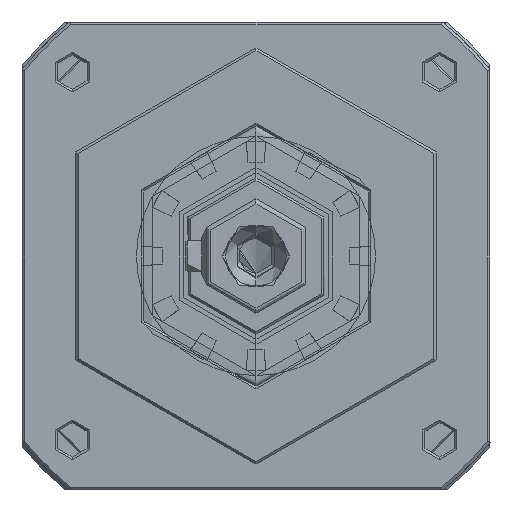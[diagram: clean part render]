
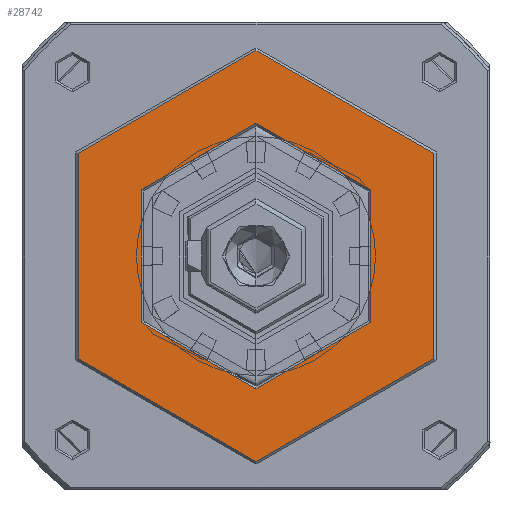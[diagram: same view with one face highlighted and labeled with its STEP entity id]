
A CAD part, left-side view. The second image highlights one B-rep face of the part: STEP entity #28742.
In plain terms, the highlighted planar face has unit normal (-1, 0, 0).
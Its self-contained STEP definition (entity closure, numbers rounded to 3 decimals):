
#3288 = CARTESIAN_POINT ( 'NONE',  ( 0., 0., 39.5 ) ) ;
#4000 = AXIS2_PLACEMENT_3D ( 'NONE', #36853, #35864, #81237 ) ;
#7111 = FACE_BOUND ( 'NONE', #68699, .T. ) ;
#7297 = PLANE ( 'NONE',  #24730 ) ;
#12722 = VERTEX_POINT ( 'NONE', #3288 ) ;
#13312 = CIRCLE ( 'NONE', #31632, 25.5 ) ;
#17200 = ORIENTED_EDGE ( 'NONE', *, *, #17558, .F. ) ;
#17558 = EDGE_CURVE ( 'NONE', #12722, #87925, #45210, .T. ) ;
#24190 = ORIENTED_EDGE ( 'NONE', *, *, #43561, .F. ) ;
#24300 = DIRECTION ( 'NONE',  ( 1., 0., 0. ) ) ;
#24730 = AXIS2_PLACEMENT_3D ( 'NONE', #76433, #68855, #76109 ) ;
#24951 = DIRECTION ( 'NONE',  ( 0., 0., 1. ) ) ;
#25917 = CARTESIAN_POINT ( 'NONE',  ( 0., 0., 0. ) ) ;
#26643 = EDGE_CURVE ( 'NONE', #57995, #82497, #13312, .T. ) ;
#28742 = ADVANCED_FACE ( 'NONE', ( #7111, #40228 ), #7297, .F. ) ;
#31414 = CARTESIAN_POINT ( 'NONE',  ( 0., 0., -39.5 ) ) ;
#31632 = AXIS2_PLACEMENT_3D ( 'NONE', #69634, #24300, #24951 ) ;
#33491 = DIRECTION ( 'NONE',  ( 1., 0., 0. ) ) ;
#35597 = DIRECTION ( 'NONE',  ( 1., 0., 0. ) ) ;
#35864 = DIRECTION ( 'NONE',  ( 1., 0., 0. ) ) ;
#35945 = EDGE_LOOP ( 'NONE', ( #24190, #17200 ) ) ;
#36301 = CIRCLE ( 'NONE', #84383, 39.5 ) ;
#36853 = CARTESIAN_POINT ( 'NONE',  ( 0., 0., 0. ) ) ;
#40228 = FACE_OUTER_BOUND ( 'NONE', #35945, .T. ) ;
#42766 = DIRECTION ( 'NONE',  ( 0., 0., -1. ) ) ;
#43188 = EDGE_CURVE ( 'NONE', #82497, #57995, #47057, .T. ) ;
#43561 = EDGE_CURVE ( 'NONE', #87925, #12722, #36301, .T. ) ;
#45210 = CIRCLE ( 'NONE', #84386, 39.5 ) ;
#47057 = CIRCLE ( 'NONE', #4000, 25.5 ) ;
#57720 = CARTESIAN_POINT ( 'NONE',  ( 0., 0., 25.5 ) ) ;
#57995 = VERTEX_POINT ( 'NONE', #57720 ) ;
#66411 = CARTESIAN_POINT ( 'NONE',  ( 0., 0., 0. ) ) ;
#68699 = EDGE_LOOP ( 'NONE', ( #71756, #85346 ) ) ;
#68855 = DIRECTION ( 'NONE',  ( 1., 0., 0. ) ) ;
#69634 = CARTESIAN_POINT ( 'NONE',  ( 0., 0., 0. ) ) ;
#71756 = ORIENTED_EDGE ( 'NONE', *, *, #26643, .T. ) ;
#76109 = DIRECTION ( 'NONE',  ( 0., 0., -1. ) ) ;
#76433 = CARTESIAN_POINT ( 'NONE',  ( 0., -39.974, 39.974 ) ) ;
#81237 = DIRECTION ( 'NONE',  ( 0., 0., 1. ) ) ;
#82497 = VERTEX_POINT ( 'NONE', #84548 ) ;
#84383 = AXIS2_PLACEMENT_3D ( 'NONE', #25917, #33491, #42766 ) ;
#84386 = AXIS2_PLACEMENT_3D ( 'NONE', #66411, #35597, #88916 ) ;
#84548 = CARTESIAN_POINT ( 'NONE',  ( 0., 0., -25.5 ) ) ;
#85346 = ORIENTED_EDGE ( 'NONE', *, *, #43188, .T. ) ;
#87925 = VERTEX_POINT ( 'NONE', #31414 ) ;
#88916 = DIRECTION ( 'NONE',  ( 0., 0., -1. ) ) ;
